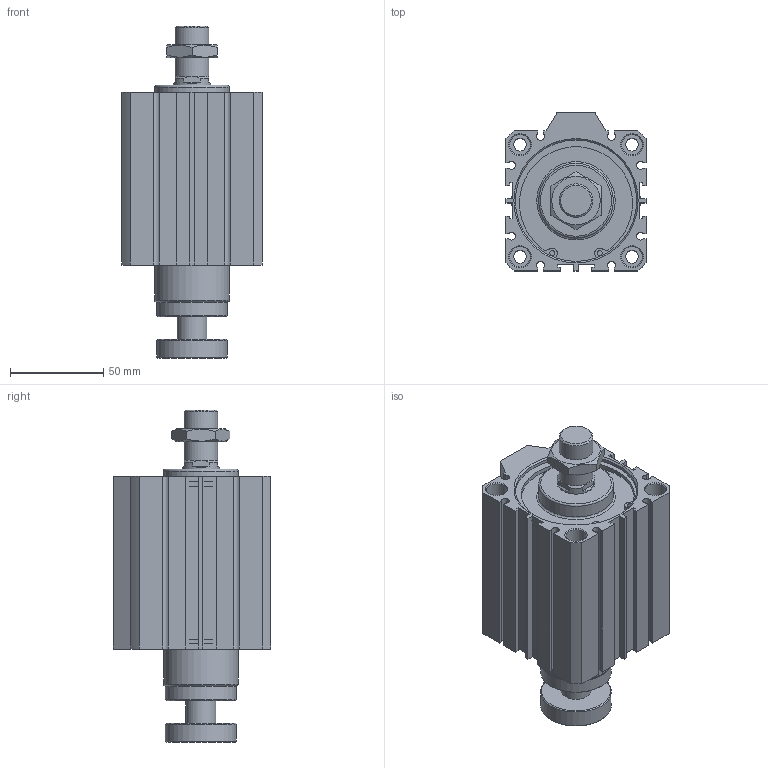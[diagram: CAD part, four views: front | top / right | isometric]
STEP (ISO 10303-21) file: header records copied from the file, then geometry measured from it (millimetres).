
FILE_DESCRIPTION((''),'2;1');
FILE_NAME('I:\3D電子目錄\氣缸\JDAR\JDAR-BS\JDAR63-BS\JDAR63x50-BS.stp','2007-05-05T14:38:48',('662F206'),(''),'Autodesk Inventor 11','Autodesk Inventor 11','');
FILE_SCHEMA(('AUTOMOTIVE_DESIGN { 1 0 10303 214 1 1 1 1 }'));
Length unit declared in the file: millimetre
Products named in the file (3): JDAR63-BS; R 形環 65
Assembly tree (3 placements, depth 2):
  JDAR63-BS
    JDAR63-BS
    R 形環 65  x2
Bounding box: 75 x 84.5 x 177.8 mm (x, y, z)
Volume: 536420.5 mm3; surface area: 80455.9 mm2
Topology: 3 solids, 3 shells, 203 faces, 490 edges, 319 vertices
Faces by surface type: plane 118, cylinder 56, cone 25, bspline 2, torus 2
Full cylindrical faces by diameter (mm): 2.7 x4, 3 x2, 6.8 x4, 11 x8, 16 x1, 18 x2, 20 x1, 38 x2, 40 x2, 65 x4, 68 x2
Entity records: 5389 total; most frequent: CARTESIAN_POINT 1017, DIRECTION 902, ORIENTED_EDGE 798, EDGE_CURVE 399, AXIS2_PLACEMENT_3D 328, VERTEX_POINT 293, EDGE_LOOP 284, VECTOR 246
